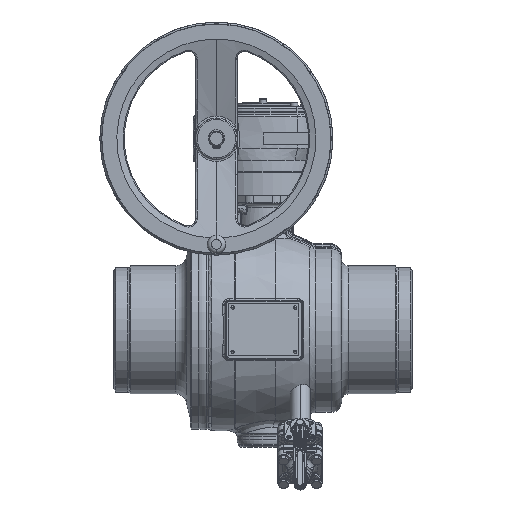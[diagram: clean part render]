
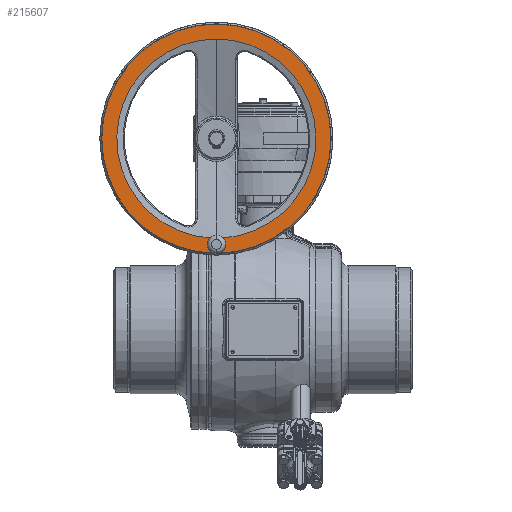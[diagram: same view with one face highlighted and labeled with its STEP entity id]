
A CAD part, top view. The second image highlights one B-rep face of the part: STEP entity #215607.
In plain terms, the highlighted planar face has unit normal (0, 0, 1) as drawn and (1, 0, 0) by its records, which use the part's own axes.
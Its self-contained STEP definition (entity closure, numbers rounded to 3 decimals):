
#212623=CARTESIAN_POINT('',(56.,0.,-143.));
#212624=DIRECTION('',(1.,0.,0.));
#212625=DIRECTION('',(0.,0.,-1.));
#212626=AXIS2_PLACEMENT_3D('',#212623,#212624,#212625);
#212628=CARTESIAN_POINT('',(56.,0.,0.));
#212629=DIRECTION('',(-1.,0.,0.));
#212630=DIRECTION('',(0.,0.,1.));
#212631=AXIS2_PLACEMENT_3D('',#212628,#212629,#212630);
#212633=CARTESIAN_POINT('',(56.,0.,0.));
#212634=DIRECTION('',(1.,0.,0.));
#212635=DIRECTION('',(0.,0.,1.));
#212636=AXIS2_PLACEMENT_3D('',#212633,#212634,#212635);
#212638=CARTESIAN_POINT('',(56.,0.,-143.));
#212639=DIRECTION('',(1.,0.,0.));
#212640=DIRECTION('',(0.,-0.615,0.788));
#212641=AXIS2_PLACEMENT_3D('',#212638,#212639,#212640);
#212643=CARTESIAN_POINT('',(56.,0.,0.));
#212644=DIRECTION('',(1.,0.,0.));
#212645=DIRECTION('',(0.,0.,1.));
#212646=AXIS2_PLACEMENT_3D('',#212643,#212644,#212645);
#212648=CARTESIAN_POINT('',(56.,0.,0.));
#212649=DIRECTION('',(1.,0.,0.));
#212650=DIRECTION('',(0.,0.,-1.));
#212651=AXIS2_PLACEMENT_3D('',#212648,#212649,#212650);
#212920=CARTESIAN_POINT('',(56.,-6.769,-134.33));
#212922=VERTEX_POINT('',#212920);
#212924=CARTESIAN_POINT('',(56.,0.,-154.));
#212925=CARTESIAN_POINT('',(56.,6.769,-134.33));
#212926=VERTEX_POINT('',#212924);
#212927=VERTEX_POINT('',#212925);
#212934=CARTESIAN_POINT('',(56.,0.,134.5));
#212935=VERTEX_POINT('',#212934);
#213113=CARTESIAN_POINT('',(56.,0.,154.793));
#213114=CARTESIAN_POINT('',(56.,0.,-154.793));
#213115=VERTEX_POINT('',#213113);
#213116=VERTEX_POINT('',#213114);
#215589=CARTESIAN_POINT('',(56.,0.,0.));
#215590=DIRECTION('',(1.,0.,0.));
#215591=DIRECTION('',(0.,0.,-1.));
#215592=AXIS2_PLACEMENT_3D('',#215589,#215590,#215591);
#215593=PLANE('',#215592);
#215595=ORIENTED_EDGE('',*,*,#215594,.F.);
#215596=ORIENTED_EDGE('',*,*,#215579,.F.);
#215597=EDGE_LOOP('',(#215595,#215596));
#215598=FACE_OUTER_BOUND('',#215597,.F.);
#215600=ORIENTED_EDGE('',*,*,#215599,.T.);
#215601=ORIENTED_EDGE('',*,*,#213192,.F.);
#215602=ORIENTED_EDGE('',*,*,#213132,.T.);
#215604=ORIENTED_EDGE('',*,*,#215603,.T.);
#215605=EDGE_LOOP('',(#215600,#215601,#215602,#215604));
#215606=FACE_BOUND('',#215605,.F.);
#215607=ADVANCED_FACE('',(#215598,#215606),#215593,.T.);
#212627=CIRCLE('',#212626,11.);
#212632=CIRCLE('',#212631,134.5);
#212637=CIRCLE('',#212636,134.5);
#212642=CIRCLE('',#212641,11.);
#212647=CIRCLE('',#212646,154.793);
#212652=CIRCLE('',#212651,154.793);
#213132=EDGE_CURVE('',#212935,#212922,#212637,.T.);
#213192=EDGE_CURVE('',#212935,#212927,#212632,.T.);
#215579=EDGE_CURVE('',#213116,#213115,#212652,.T.);
#215594=EDGE_CURVE('',#213115,#213116,#212647,.T.);
#215599=EDGE_CURVE('',#212926,#212927,#212627,.T.);
#215603=EDGE_CURVE('',#212922,#212926,#212642,.T.);
